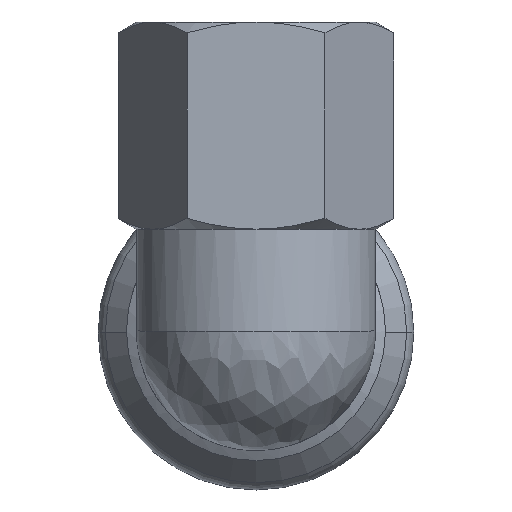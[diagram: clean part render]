
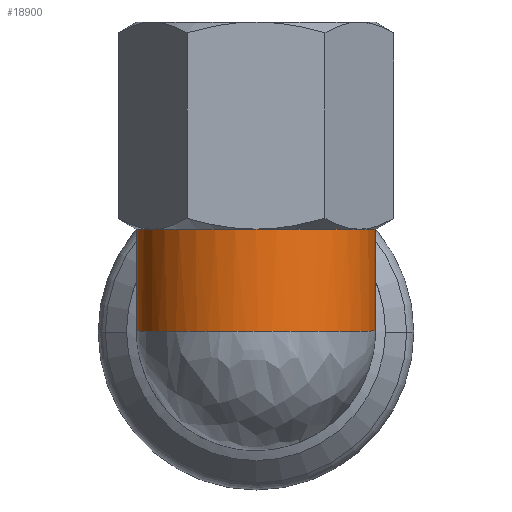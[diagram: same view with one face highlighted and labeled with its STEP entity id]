
A CAD part, top view. The second image highlights one B-rep face of the part: STEP entity #18900.
In plain terms, the highlighted cylindrical face has radius 12 mm (diameter 24 mm), a partial arc.
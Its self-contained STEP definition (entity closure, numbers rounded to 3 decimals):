
#16760=CARTESIAN_POINT('',(-6.928,9.798,
14.402));
#16770=VERTEX_POINT('',#16760);
#16800=CARTESIAN_POINT('',(0.,0.,24.2));
#16810=DIRECTION('',(0.,-0.707,-0.707));
#16820=DIRECTION('',(0.,-0.707,0.707));
#16830=AXIS2_PLACEMENT_3D('',#16800,#16810,#16820);
#16840=ELLIPSE('',#16830,16.971,12.);
#16850=CARTESIAN_POINT('',(-12.,0.,24.2));
#16860=VERTEX_POINT('',#16850);
#16870=EDGE_CURVE('',#16860,#16770,#16840,.T.);
#17160=CARTESIAN_POINT('',(12.,0.,24.2));
#17170=VERTEX_POINT('',#17160);
#17200=CARTESIAN_POINT('',(0.,0.,24.2));
#17210=DIRECTION('',(0.,-0.707,-0.707));
#17220=DIRECTION('',(0.,-0.707,0.707));
#17230=AXIS2_PLACEMENT_3D('',#17200,#17210,#17220);
#17240=ELLIPSE('',#17230,16.971,12.);
#17250=CARTESIAN_POINT('',(6.321,10.2,14.));
#17260=VERTEX_POINT('',#17250);
#17270=EDGE_CURVE('',#17260,#17170,#17240,.T.);
#18030=CARTESIAN_POINT('',(0.,0.,24.2));
#18040=DIRECTION('',(0.,1.,0.));
#18050=DIRECTION('',(1.,0.,0.));
#18060=AXIS2_PLACEMENT_3D('',#18030,#18040,#18050);
#18070=CYLINDRICAL_SURFACE('',#18060,12.);
#18080=CARTESIAN_POINT('',(12.,0.,24.2));
#18090=CARTESIAN_POINT('',(12.,-0.005,24.714));
#18100=CARTESIAN_POINT('',(11.967,-0.004,
25.228));
#18110=CARTESIAN_POINT('',(11.835,-0.009,
26.252));
#18120=CARTESIAN_POINT('',(11.735,-0.011,
26.762));
#18130=CARTESIAN_POINT('',(11.33,-0.017,
28.296));
#18140=CARTESIAN_POINT('',(10.92,-0.021,
29.288));
#18150=CARTESIAN_POINT('',(9.629,-0.03,
31.519));
#18160=CARTESIAN_POINT('',(8.632,-0.035,
32.671));
#18170=CARTESIAN_POINT('',(6.42,-0.043,
34.422));
#18180=CARTESIAN_POINT('',(5.266,-0.045,
35.062));
#18190=CARTESIAN_POINT('',(2.737,-0.049,
35.964));
#18200=CARTESIAN_POINT('',(1.373,-0.05,
36.2));
#18210=CARTESIAN_POINT('',(-1.373,-0.05,
36.2));
#18220=CARTESIAN_POINT('',(-2.737,-0.049,
35.964));
#18230=CARTESIAN_POINT('',(-5.266,-0.045,
35.062));
#18240=CARTESIAN_POINT('',(-6.42,-0.043,
34.422));
#18250=CARTESIAN_POINT('',(-8.632,-0.035,
32.671));
#18260=CARTESIAN_POINT('',(-9.629,-0.03,
31.519));
#18270=CARTESIAN_POINT('',(-10.92,-0.021,
29.288));
#18280=CARTESIAN_POINT('',(-11.33,-0.017,
28.296));
#18290=CARTESIAN_POINT('',(-11.735,-0.011,
26.762));
#18300=CARTESIAN_POINT('',(-11.835,-0.009,
26.252));
#18310=CARTESIAN_POINT('',(-11.967,-0.004,
25.228));
#18320=CARTESIAN_POINT('',(-12.,-0.005,24.714));
#18330=CARTESIAN_POINT('',(-12.,0.,24.2));
#18340=B_SPLINE_CURVE_WITH_KNOTS('',3,(#18080,#18090,#18100,#18110,
#18120,#18130,#18140,#18150,#18160,#18170,#18180,#18190,#18200,#18210,
#18220,#18230,#18240,#18250,#18260,#18270,#18280,#18290,#18300,#18310,
#18320,#18330),.UNSPECIFIED.,.F.,.F.,(4,2,2,2,2,2,2,2,2,2,2,2,4),(0.,
1.542,3.098,6.301,10.829,
14.762,18.881,23.,26.933,
31.461,34.665,36.22,37.762),
.UNSPECIFIED.);
#18350=EDGE_CURVE('',#17170,#16860,#18340,.T.);
#18360=ORIENTED_EDGE('',*,*,#18350,.F.);
#18370=ORIENTED_EDGE('',*,*,#16870,.F.);
#18380=CARTESIAN_POINT('',(-6.928,0.,
14.402));
#18390=DIRECTION('',(0.,1.,0.));
#18400=VECTOR('',#18390,1.);
#18410=LINE('',#18380,#18400);
#18420=CARTESIAN_POINT('',(-6.928,10.2,
14.402));
#18430=VERTEX_POINT('',#18420);
#18440=EDGE_CURVE('',#16770,#18430,#18410,.T.);
#18450=ORIENTED_EDGE('',*,*,#18440,.F.);
#18460=CARTESIAN_POINT('',(0.,10.2,24.2));
#18470=DIRECTION('',(0.,1.,0.));
#18480=DIRECTION('',(1.,0.,0.));
#18490=AXIS2_PLACEMENT_3D('',#18460,#18470,#18480);
#18500=CIRCLE('',#18490,12.);
#18510=CARTESIAN_POINT('',(-10.392,10.2,18.2));
#18520=VERTEX_POINT('',#18510);
#18530=EDGE_CURVE('',#18430,#18520,#18500,.T.);
#18540=ORIENTED_EDGE('',*,*,#18530,.F.);
#18550=CARTESIAN_POINT('',(-10.392,10.2,30.2));
#18560=VERTEX_POINT('',#18550);
#18570=EDGE_CURVE('',#18520,#18560,#18500,.T.);
#18580=ORIENTED_EDGE('',*,*,#18570,.F.);
#18590=CARTESIAN_POINT('',(0.,10.2,36.2));
#18600=VERTEX_POINT('',#18590);
#18610=EDGE_CURVE('',#18560,#18600,#18500,.T.);
#18620=ORIENTED_EDGE('',*,*,#18610,.F.);
#18630=CARTESIAN_POINT('',(10.392,10.2,30.2));
#18640=VERTEX_POINT('',#18630);
#18650=EDGE_CURVE('',#18600,#18640,#18500,.T.);
#18660=ORIENTED_EDGE('',*,*,#18650,.F.);
#18670=CARTESIAN_POINT('',(10.392,10.2,18.2));
#18680=VERTEX_POINT('',#18670);
#18690=EDGE_CURVE('',#18640,#18680,#18500,.T.);
#18700=ORIENTED_EDGE('',*,*,#18690,.F.);
#18710=CARTESIAN_POINT('',(0.,10.2,24.2));
#18720=DIRECTION('',(0.,1.,0.));
#18730=DIRECTION('',(1.,0.,0.));
#18740=AXIS2_PLACEMENT_3D('',#18710,#18720,#18730);
#18750=CIRCLE('',#18740,12.);
#18760=CARTESIAN_POINT('',(6.928,10.2,
14.402));
#18770=VERTEX_POINT('',#18760);
#18780=EDGE_CURVE('',#18680,#18770,#18750,.T.);
#18790=ORIENTED_EDGE('',*,*,#18780,.F.);
#18800=CARTESIAN_POINT('',(0.,10.2,24.2));
#18810=DIRECTION('',(0.,1.,0.));
#18820=DIRECTION('',(0.,0.,-1.));
#18830=AXIS2_PLACEMENT_3D('',#18800,#18810,#18820);
#18840=CIRCLE('',#18830,12.);
#18850=EDGE_CURVE('',#18770,#17260,#18840,.T.);
#18860=ORIENTED_EDGE('',*,*,#18850,.F.);
#18870=ORIENTED_EDGE('',*,*,#17270,.F.);
#18880=EDGE_LOOP('',(#18870,#18860,#18790,#18700,#18660,#18620,#18580,
#18540,#18450,#18370,#18360));
#18890=FACE_OUTER_BOUND('',#18880,.T.);
#18900=ADVANCED_FACE('',(#18890),#18070,.T.);
